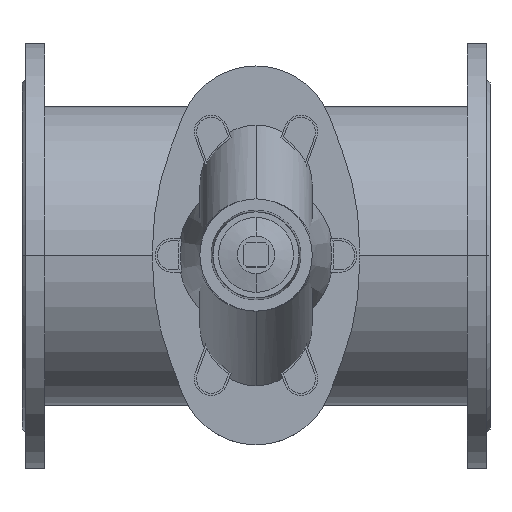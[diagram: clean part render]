
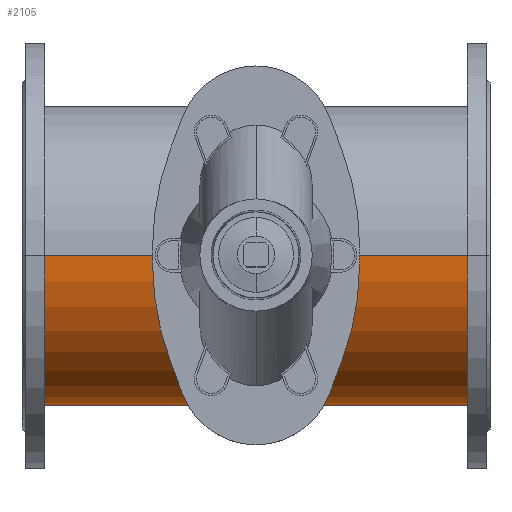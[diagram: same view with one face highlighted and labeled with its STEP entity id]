
A CAD part, top view. The second image highlights one B-rep face of the part: STEP entity #2105.
In plain terms, the highlighted cylindrical face has radius 160 mm (diameter 320 mm), a partial arc.
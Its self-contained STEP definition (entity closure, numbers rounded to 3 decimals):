
#2105=ADVANCED_FACE('',(#3931),#3932,.T.);
#3931=FACE_OUTER_BOUND('',#5998,.T.);
#3932=CYLINDRICAL_SURFACE('',#5999,160.0);
#5998=EDGE_LOOP('',(#10397,#10398,#10399,#10400));
#5999=AXIS2_PLACEMENT_3D('',#10401,#10402,#10403);
#10397=ORIENTED_EDGE('',*,*,#12215,.F.);
#10398=ORIENTED_EDGE('',*,*,#10974,.T.);
#10399=ORIENTED_EDGE('',*,*,#12216,.F.);
#10400=ORIENTED_EDGE('',*,*,#12060,.T.);
#10401=CARTESIAN_POINT('',(24.5,0.0,0.));
#10402=DIRECTION('',(1.0,0.0,0.));
#10403=DIRECTION('',(0.,0.0,1.0));
#10974=EDGE_CURVE('',#13083,#13084,#13085,.T.);
#12060=EDGE_CURVE('',#14618,#14617,#14620,.T.);
#12215=EDGE_CURVE('',#13083,#14617,#14779,.T.);
#12216=EDGE_CURVE('',#14618,#13084,#14780,.T.);
#13083=VERTEX_POINT('',#15874);
#13084=VERTEX_POINT('',#15875);
#13085=CIRCLE('',#15876,160.0);
#14617=VERTEX_POINT('',#17831);
#14618=VERTEX_POINT('',#17832);
#14620=CIRCLE('',#17834,160.0);
#14779=LINE('',#18024,#18025);
#14780=LINE('',#18026,#18027);
#15874=CARTESIAN_POINT('',(24.5,0.0,160.0));
#15875=CARTESIAN_POINT('',(24.5,0.,-160.0));
#15876=AXIS2_PLACEMENT_3D('',#18752,#18753,#18754);
#17831=CARTESIAN_POINT('',(475.5,0.0,160.0));
#17832=CARTESIAN_POINT('',(475.5,0.,-160.0));
#17834=AXIS2_PLACEMENT_3D('',#20198,#20199,#20200);
#18024=CARTESIAN_POINT('',(24.5,0.,160.0));
#18025=VECTOR('',#20304,1.0);
#18026=CARTESIAN_POINT('',(24.5,0.,-160.0));
#18027=VECTOR('',#20305,1.0);
#18752=CARTESIAN_POINT('',(24.5,0.0,0.));
#18753=DIRECTION('',(1.0,0.0,0.));
#18754=DIRECTION('',(0.,0.0,1.0));
#20198=CARTESIAN_POINT('',(475.5,0.0,0.));
#20199=DIRECTION('',(-1.0,0.0,0.));
#20200=DIRECTION('',(0.,0.0,1.0));
#20304=DIRECTION('',(1.0,0.0,0.));
#20305=DIRECTION('',(-1.0,-0.0,0.));
